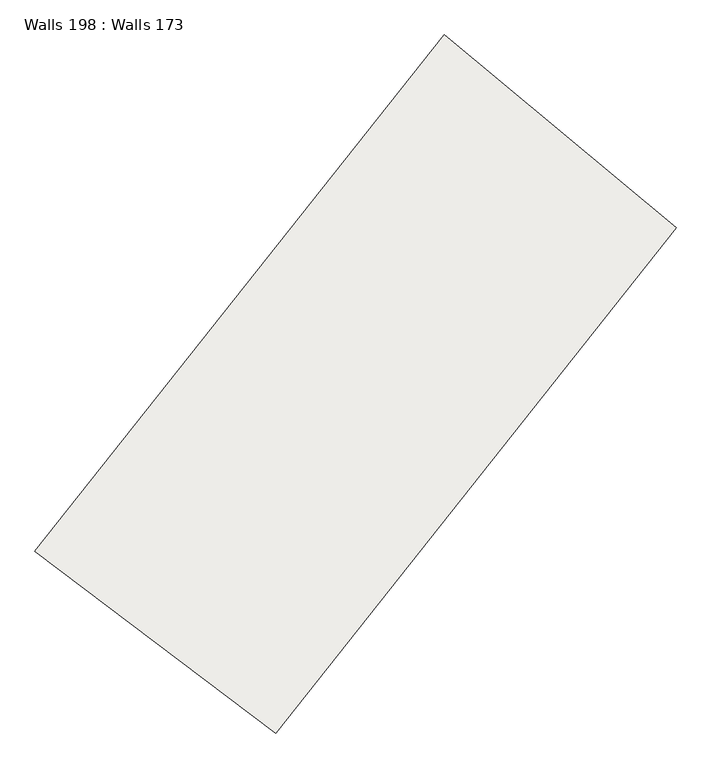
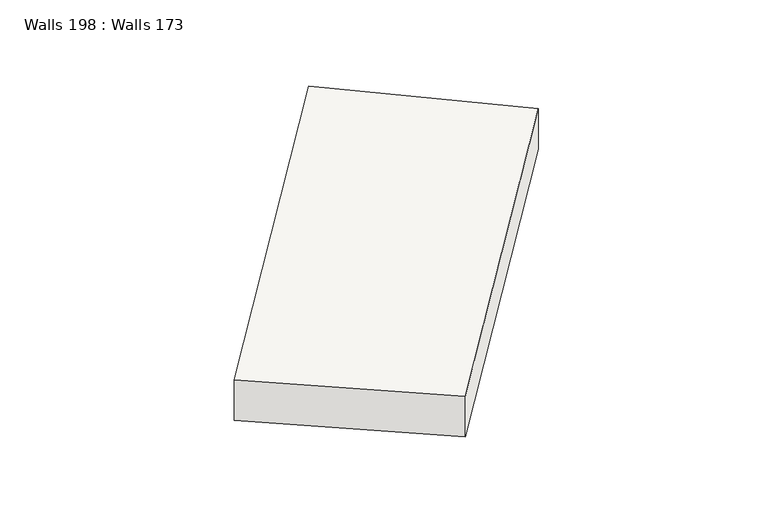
"""IFC4 building model written with IfcOpenShell, lengths in millimetres: slab geometry, Walls 198 : Walls 173."""

from ifc_helpers import new_model, si_unit, frame, origin, place, context, project, spatial, source, transform, mapped, element, save
from ifc_brep_helpers import plane_surface, spline_curve, spline_surface, advanced_brep


def walls_198_walls_173_faefd0a9(model_context):
    return source(origin(), model_context, "Body", "AdvancedBrep", [
        advanced_brep(
        [(220934.2527295, 125969.3778144, 642060.0), (224128.5122397, 123561.7428376, 642060.0), (224128.5122397, 123561.7428376, 642910.0), (220934.2527295, 125969.3778144, 642910.0), (226360.6965553, 132817.9643385, 642170.0), (226360.6965553, 132817.9643385, 643020.0), (229434.9019986, 130258.8119608, 643020.0), (229434.9019986, 130258.8119608, 642170.0)],
        [
            (0, 1),
            (1, 2),
            (2, 3),
            (3, 0),
            (4, 5),
            (5, 6),
            (6, 7),
            (7, 4),
            (5, 3, spline_curve(3, [(226360.6965553, 132817.9643385, 643020.0), (224497.06492355, 130579.259618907, 642983.333333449), (222687.546022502, 128295.50857293, 642946.666666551), (220934.2527295, 125969.3778144, 642910.0)], [4, 4], [0.0, 28.354972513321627])),
            (2, 6, spline_curve(3, [(224128.5122397, 123561.7428376, 642910.0), (225843.015858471, 125836.410526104, 642946.666666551), (227612.501155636, 128069.636107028, 642983.333333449), (229434.9019986, 130258.8119608, 643020.0)], [4, 4], [0.0, 28.354972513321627])),
            (7, 1, spline_curve(3, [(229434.9019986, 130258.8119608, 642170.0), (227612.501155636, 128069.636107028, 642133.333333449), (225843.015858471, 125836.410526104, 642096.666666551), (224128.5122397, 123561.7428376, 642060.0)], [4, 4], [0.0, 28.354972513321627])),
            (0, 4, spline_curve(3, [(220934.2527295, 125969.3778144, 642060.0), (222687.546022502, 128295.50857293, 642096.666666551), (224497.06492355, 130579.259618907, 642133.333333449), (226360.6965553, 132817.9643385, 642170.0)], [4, 4], [0.0, 28.354972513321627])),
        ],
        [
            plane_surface(frame((222531.3824846, 124765.560326, 642485.0), z_axis=(-0.601908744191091, -0.7985648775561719, 0.0), x_axis=(0.0, 0.0, 1.0))),
            plane_surface(frame((227897.7992769, 131538.3881496, 642595.0), z_axis=(0.6397880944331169, 0.7685513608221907, 0.0), x_axis=(0.7685513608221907, -0.6397880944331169, 0.0))),
            spline_surface(3, 3, [[(229434.9019986, 130258.8119608, 643020.0), (227612.501155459, 128069.636106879, 642983.333333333), (225843.015858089, 125836.410526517, 642946.666666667), (224128.5122397, 123561.7428376, 642910.0)], [(228410.166850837, 131111.862753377, 643020.0), (226574.022411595, 128906.177277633, 642983.333333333), (224791.192579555, 126656.109875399, 642946.666666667), (223063.759069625, 124364.287829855, 642910.0)], [(227385.431703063, 131964.913545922, 643020.0), (225535.543667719, 129742.718448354, 642983.333333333), (223739.369301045, 127475.809224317, 642946.666666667), (221999.005899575, 125166.832822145, 642910.0)], [(226360.6965553, 132817.9643385, 643020.0), (224497.064923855, 130579.259619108, 642983.333333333), (222687.546022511, 128295.508573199, 642946.666666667), (220934.2527295, 125969.3778144, 642910.0)]], [4, 4], [4, 4], [0.0, 13.123359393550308], [0.0, 28.354972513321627]),
            spline_surface(3, 3, [[(226360.6965553, 132817.9643385, 642170.0), (224497.064923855, 130579.259619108, 642133.333333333), (222687.546022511, 128295.508573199, 642096.666666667), (220934.2527295, 125969.3778144, 642060.0)], [(227385.431703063, 131964.913545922, 642170.0), (225535.543667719, 129742.718448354, 642133.333333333), (223739.369301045, 127475.809224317, 642096.666666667), (221999.005899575, 125166.832822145, 642060.0)], [(228410.166850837, 131111.862753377, 642170.0), (226574.022411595, 128906.177277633, 642133.333333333), (224791.192579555, 126656.109875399, 642096.666666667), (223063.759069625, 124364.287829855, 642060.0)], [(229434.9019986, 130258.8119608, 642170.0), (227612.501155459, 128069.636106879, 642133.333333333), (225843.015858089, 125836.410526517, 642096.666666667), (224128.5122397, 123561.7428376, 642060.0)]], [4, 4], [4, 4], [0.0, 13.12335939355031], [0.0, 28.354972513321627]),
            spline_surface(3, 3, [[(226360.6965553, 132817.9643385, 643020.0), (224497.064923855, 130579.259619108, 642983.333333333), (222687.546022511, 128295.508573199, 642946.666666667), (220934.2527295, 125969.3778144, 642910.0)], [(226360.6965553, 132817.9643385, 642736.666666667), (224497.064923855, 130579.259619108, 642700.0), (222687.546022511, 128295.508573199, 642663.333333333), (220934.2527295, 125969.3778144, 642626.666666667)], [(226360.6965553, 132817.9643385, 642453.333333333), (224497.064923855, 130579.259619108, 642416.666666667), (222687.546022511, 128295.508573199, 642380.0), (220934.2527295, 125969.3778144, 642343.333333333)], [(226360.6965553, 132817.9643385, 642170.0), (224497.064923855, 130579.259619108, 642133.333333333), (222687.546022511, 128295.508573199, 642096.666666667), (220934.2527295, 125969.3778144, 642060.0)]], [4, 4], [4, 4], [0.0, 2.788713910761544], [0.0, 28.672091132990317]),
            spline_surface(3, 3, [[(229434.9019986, 130258.8119608, 642170.0), (227612.501155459, 128069.636106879, 642133.333333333), (225843.015858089, 125836.410526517, 642096.666666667), (224128.5122397, 123561.7428376, 642060.0)], [(229434.9019986, 130258.8119608, 642453.333333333), (227612.501155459, 128069.636106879, 642416.666666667), (225843.015858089, 125836.410526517, 642380.0), (224128.5122397, 123561.7428376, 642343.333333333)], [(229434.9019986, 130258.8119608, 642736.666666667), (227612.501155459, 128069.636106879, 642700.0), (225843.015858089, 125836.410526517, 642663.333333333), (224128.5122397, 123561.7428376, 642626.666666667)], [(229434.9019986, 130258.8119608, 643020.0), (227612.501155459, 128069.636106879, 642983.333333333), (225843.015858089, 125836.410526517, 642946.666666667), (224128.5122397, 123561.7428376, 642910.0)]], [4, 4], [4, 4], [0.0, 2.788713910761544], [0.0, 28.037854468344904]),
        ],
        [
            (0, [[1, 2, 3, 4]]),
            (1, [[5, 6, 7, 8]]),
            (2, [[-6, 9, -3, 10]]),
            (3, [[-8, 11, -1, 12]]),
            (4, [[-5, -12, -4, -9]]),
            (5, [[-7, -10, -2, -11]]),
        ],
    ),
    ])


if __name__ == "__main__":
    model = new_model("IFC4")
    model_context = context("Model", 3, world=origin())
    ifc_project = project(units=[si_unit("LENGTHUNIT", "METRE", prefix="MILLI")], contexts=[model_context])
    site = spatial("IfcSite", under=ifc_project)
    building = spatial("IfcBuilding", under=site)
    placement = place(None, origin())
    walls_198_walls_173_shape = walls_198_walls_173_faefd0a9(model_context)
    element("IfcSlab", 1, ObjectType="Walls 198 : Walls 173", at=placement, inside=building, context=model_context, shape_type="MappedRepresentation", body=[
        mapped(walls_198_walls_173_shape, transform((0.0, 0.0, 0.0), x_axis=(1.0, 0.0, 0.0), y_axis=(0.0, 1.0, 0.0), z_axis=(0.0, 0.0, 1.0))),
    ])
    save(model, "model.ifc")
